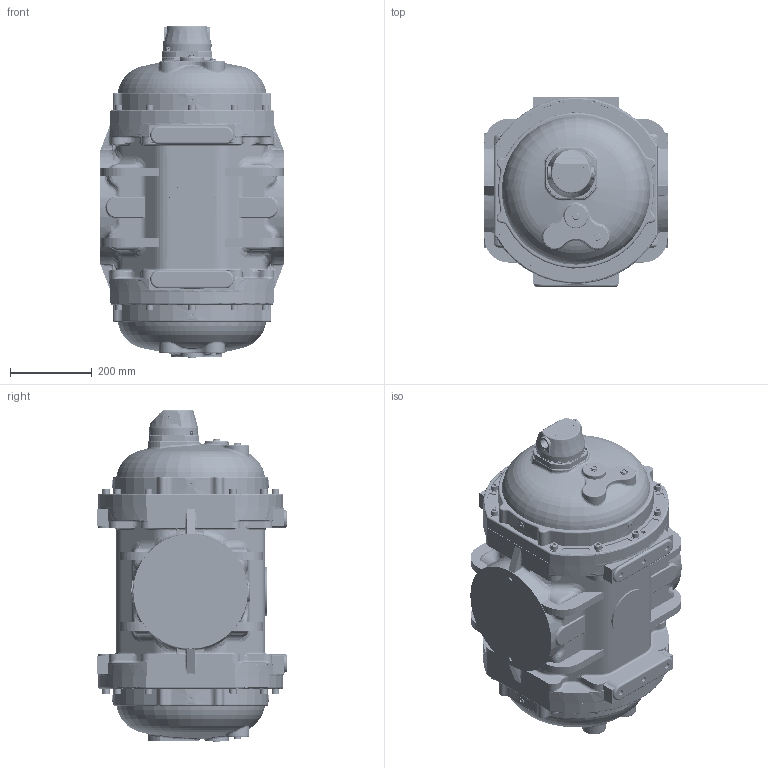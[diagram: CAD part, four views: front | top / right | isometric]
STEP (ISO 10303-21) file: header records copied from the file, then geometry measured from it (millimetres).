
FILE_DESCRIPTION(('STEP AP203'), '1');
FILE_NAME('ÐÃ-Ð G650-DN150', '', ('UNSPECIFIED'), ('UNSPECIFIED'), 'C3D Converter', 'C3D Toolkit', '');
FILE_SCHEMA(('CONFIG_CONTROL_DESIGN'));
Length unit declared in the file: millimetre
Products named in the file (1): G650
Bounding box: 450 x 463.5 x 810.5 mm (x, y, z)
Volume: 11952997.8 mm3; surface area: 4367925.7 mm2
Topology: 12 solids, 13 shells, 3297 faces, 8009 edges, 4850 vertices
Faces by surface type: cylinder 1159, plane 996, bspline 472, torus 389, cone 247, sphere 34
Full cylindrical faces by diameter (mm): 2 x8, 2.05 x2, 2.5 x8, 3.175 x1, 3.2 x1, 3.3 x1, 4.2 x4, 4.5 x1, 5 x10, 5.2 x4, 5.5 x12, 5.774 x9, 6.2 x1, 7.8 x4, 8 x6, 8.5 x2, 9.4 x4, 10.2 x62, 11 x7, 11.125 x6, 12 x34, 12.3 x2, 12.7 x12, 13 x20, 13.096 x12, 13.5 x20, 14 x4, 14.287 x2, 16 x4, 17.5 x30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
Entity records: 199535 total; most frequent: CARTESIAN_POINT 103728, ORIENTED_EDGE 14107, DIRECTION 13632, EDGE_CURVE 7055, AXIS2_PLACEMENT_3D 5664, VERTEX_POINT 4716, EDGE_LOOP 4330, COLOUR_RGB 3306
